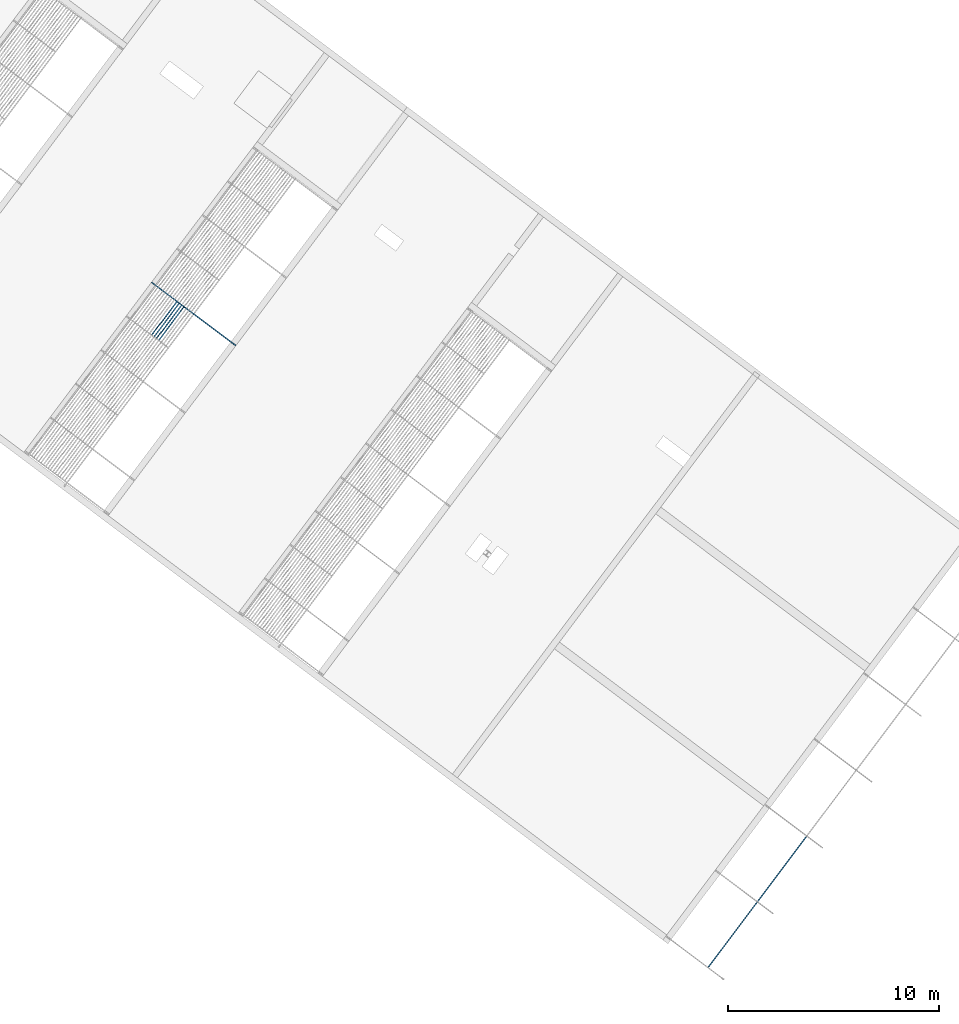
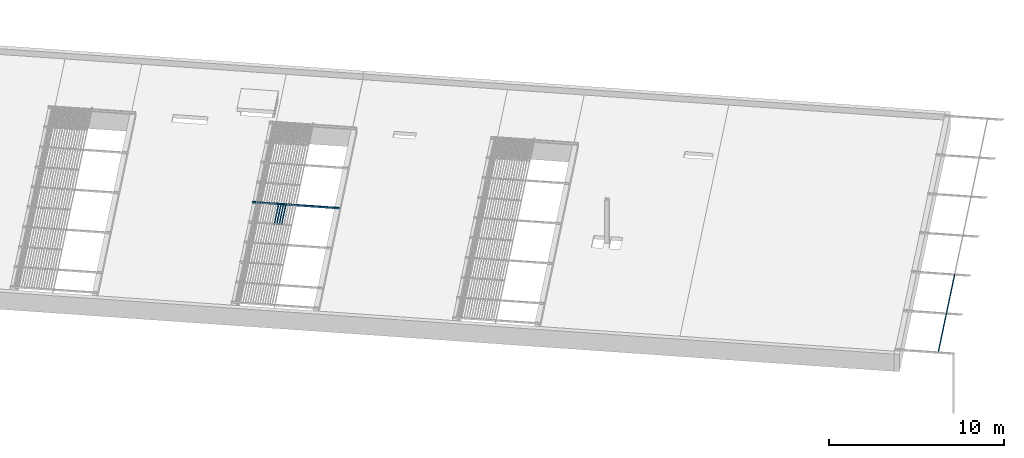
# One storey, part 16 of 95: 7 beams.
"""IFC2X3 building model written with IfcOpenShell, lengths in metres."""

from ifc_helpers import new_model, entity, si_unit, converted_unit, derived_unit, direction, frame, frame_2d, origin, place, context, subcontext, project, spatial, polyline, circle_curve, parameter, trimmed, segment, composite_curve, outline, extrude, material, type_object, element, save


model = new_model("IFC2X3")

# Units and contexts
model_context = context("Model", 3, precision=1e-05, world=origin(), true_north=direction((6.123031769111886e-17, 1.0)))
body_context = subcontext(model_context, "Body", "Model", "MODEL_VIEW")
ifc_project = project(units=[si_unit("LENGTHUNIT", "METRE"), si_unit("AREAUNIT", "SQUARE_METRE"), si_unit("VOLUMEUNIT", "CUBIC_METRE"), converted_unit("PLANEANGLEUNIT", "DEGREE", entity("IfcRatioMeasure", 0.017453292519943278), si_unit("PLANEANGLEUNIT", "RADIAN"), dimensions=[0, 0, 0, 0, 0, 0, 0]), si_unit("MASSUNIT", "GRAM", prefix="KILO"), derived_unit("MASSDENSITYUNIT", [(si_unit("MASSUNIT", "GRAM", prefix="KILO"), 1), (si_unit("LENGTHUNIT", "METRE"), -3)]), derived_unit("IONCONCENTRATIONUNIT", [(si_unit("MASSUNIT", "GRAM", prefix="KILO"), 1), (si_unit("LENGTHUNIT", "METRE"), -3)]), derived_unit("MOMENTOFINERTIAUNIT", [(si_unit("LENGTHUNIT", "METRE"), 4)]), si_unit("TIMEUNIT", "SECOND"), si_unit("FREQUENCYUNIT", "HERTZ"), si_unit("THERMODYNAMICTEMPERATUREUNIT", "DEGREE_CELSIUS"), derived_unit("THERMALTRANSMITTANCEUNIT", [(si_unit("MASSUNIT", "GRAM", prefix="KILO"), 1), (si_unit("THERMODYNAMICTEMPERATUREUNIT", "KELVIN"), -1), (si_unit("TIMEUNIT", "SECOND"), -3)]), derived_unit("THERMALCONDUCTANCEUNIT", [(si_unit("MASSUNIT", "GRAM", prefix="KILO"), 1), (si_unit("THERMODYNAMICTEMPERATUREUNIT", "KELVIN"), -1), (si_unit("TIMEUNIT", "SECOND"), -3), (si_unit("LENGTHUNIT", "METRE"), 1)]), derived_unit("VOLUMETRICFLOWRATEUNIT", [(si_unit("LENGTHUNIT", "METRE"), 3), (si_unit("TIMEUNIT", "SECOND"), -1)]), derived_unit("MASSFLOWRATEUNIT", [(si_unit("MASSUNIT", "GRAM", prefix="KILO"), 1), (si_unit("TIMEUNIT", "SECOND"), -1)]), derived_unit("ROTATIONALFREQUENCYUNIT", [(si_unit("TIMEUNIT", "SECOND"), -1)]), si_unit("ELECTRICCURRENTUNIT", "AMPERE"), si_unit("ELECTRICVOLTAGEUNIT", "VOLT"), si_unit("POWERUNIT", "WATT"), si_unit("FORCEUNIT", "NEWTON", prefix="KILO"), si_unit("ILLUMINANCEUNIT", "LUX"), si_unit("LUMINOUSFLUXUNIT", "LUMEN"), si_unit("LUMINOUSINTENSITYUNIT", "CANDELA"), derived_unit("USERDEFINED", [(si_unit("MASSUNIT", "GRAM", prefix="KILO"), -1), (si_unit("LENGTHUNIT", "METRE"), -2), (si_unit("TIMEUNIT", "SECOND"), 3), (si_unit("LUMINOUSFLUXUNIT", "LUMEN"), 1)]), derived_unit("USERDEFINED", [(si_unit("MASSUNIT", "GRAM", prefix="KILO"), 1), (si_unit("TIMEUNIT", "SECOND"), -3), (si_unit("LENGTHUNIT", "METRE"), 3), (si_unit("ELECTRICCURRENTUNIT", "AMPERE"), -2)]), derived_unit("SOUNDPOWERUNIT", [(si_unit("MASSUNIT", "GRAM", prefix="KILO"), 1), (si_unit("TIMEUNIT", "SECOND"), -3), (si_unit("LENGTHUNIT", "METRE"), 2)]), derived_unit("SOUNDPRESSUREUNIT", [(si_unit("MASSUNIT", "GRAM", prefix="KILO"), 1), (si_unit("LENGTHUNIT", "METRE"), -1), (si_unit("TIMEUNIT", "SECOND"), -2)]), derived_unit("LINEARVELOCITYUNIT", [(si_unit("LENGTHUNIT", "METRE"), 1), (si_unit("TIMEUNIT", "SECOND"), -1)]), si_unit("PRESSUREUNIT", "PASCAL"), derived_unit("USERDEFINED", [(si_unit("MASSUNIT", "GRAM", prefix="KILO"), 1), (si_unit("LENGTHUNIT", "METRE"), -2), (si_unit("TIMEUNIT", "SECOND"), -2)]), derived_unit("LINEARFORCEUNIT", [(si_unit("MASSUNIT", "GRAM", prefix="KILO"), 1), (si_unit("TIMEUNIT", "SECOND"), -2)]), derived_unit("PLANARFORCEUNIT", [(si_unit("MASSUNIT", "GRAM", prefix="KILO"), 1), (si_unit("LENGTHUNIT", "METRE"), -1), (si_unit("TIMEUNIT", "SECOND"), -2)]), derived_unit("SPECIFICHEATCAPACITYUNIT", [(si_unit("THERMODYNAMICTEMPERATUREUNIT", "KELVIN"), -1), (si_unit("LENGTHUNIT", "METRE"), 2), (si_unit("TIMEUNIT", "SECOND"), -2)]), derived_unit("HEATINGVALUEUNIT", [(si_unit("LENGTHUNIT", "METRE"), 2), (si_unit("TIMEUNIT", "SECOND"), -2)]), derived_unit("VAPORPERMEABILITYUNIT", [(si_unit("LENGTHUNIT", "METRE"), -1), (si_unit("TIMEUNIT", "SECOND"), 1)]), derived_unit("DYNAMICVISCOSITYUNIT", [(si_unit("MASSUNIT", "GRAM", prefix="KILO"), 1), (si_unit("TIMEUNIT", "SECOND"), -1), (si_unit("LENGTHUNIT", "METRE"), -1)]), derived_unit("THERMALEXPANSIONCOEFFICIENTUNIT", [(si_unit("THERMODYNAMICTEMPERATUREUNIT", "KELVIN"), -1)]), derived_unit("MODULUSOFELASTICITYUNIT", [(si_unit("MASSUNIT", "GRAM", prefix="KILO"), 1), (si_unit("LENGTHUNIT", "METRE"), -1), (si_unit("TIMEUNIT", "SECOND"), -2)]), derived_unit("ISOTHERMALMOISTURECAPACITYUNIT", [(si_unit("LENGTHUNIT", "METRE"), 3), (si_unit("MASSUNIT", "GRAM", prefix="KILO"), -1)]), derived_unit("MOISTUREDIFFUSIVITYUNIT", [(si_unit("TIMEUNIT", "SECOND"), -1), (si_unit("LENGTHUNIT", "METRE"), 2)])], contexts=[model_context])

# Site, building, storey
site_placement = place(None, origin())
site = spatial("IfcSite", under=ifc_project, at=site_placement, Name="Default", CompositionType="ELEMENT")
building_placement = place(site_placement, frame((0.0, 0.0, 235.0), z_axis=(0.0, 0.0, 1.0), x_axis=(-0.7996477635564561, 0.6004693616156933, 0.0)))
building = spatial("IfcBuilding", under=site, at=building_placement, CompositionType="ELEMENT")
storey_placement = place(building_placement, frame((0.0, 0.0, 3.400000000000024)))
storey = spatial("IfcBuildingStorey", under=building, at=storey_placement, Name="PC- Coberta STR", CompositionType="ELEMENT", Elevation=3.400000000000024)

# Beams
ifc_material = material(Name="_Acer- STR")
beam_type_1 = type_object("IfcBeamType", Name="STR- V- Acer- RHS- Rectangular- T1:120x60RHS", PredefinedType="NOTDEFINED")
beam_1_placement = place(storey_placement, frame((0.716308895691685, -22.14701323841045, 0.49840472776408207), z_axis=(0.0, 0.0, 1.0), x_axis=(0.0, -1.0, 0.0)))
element("IfcBeam", 1, at=beam_1_placement, inside=storey, type_object=beam_type_1, material=ifc_material, Name="STR- V- Acer- RHS- Rectangular- T1:120x60RHS", ObjectType="STR- V- Acer- RHS- Rectangular- T1:120x60RHS", context=body_context, shape_type="SweptSolid", body=[
    extrude(outline(composite_curve([segment(trimmed(circle_curve(frame_2d((-0.022000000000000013, -0.05200000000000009), x_axis=(1.0, 0.0)), 0.008), [parameter(180.0000000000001)], [parameter(269.99999999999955)], True, "PARAMETER"), True, "CONTINUOUS"), segment(polyline([(-0.021999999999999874, -0.0599999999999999), (0.022000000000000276, -0.0599999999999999)]), True, "CONTINUOUS"), segment(trimmed(circle_curve(frame_2d((0.022000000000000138, -0.05200000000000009), x_axis=(1.0, 0.0)), 0.008), [parameter(269.99999999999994)], [parameter(5.088887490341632e-14)], True, "PARAMETER"), True, "CONTINUOUS"), segment(polyline([(0.03000000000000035, -0.05200000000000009), (0.03000000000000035, 0.05200000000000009)]), True, "CONTINUOUS"), segment(trimmed(circle_curve(frame_2d((0.022000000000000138, 0.05200000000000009), x_axis=(1.0, 0.0)), 0.008), [parameter(359.99999999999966)], [parameter(89.99999999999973)], True, "PARAMETER"), True, "CONTINUOUS"), segment(polyline([(0.022000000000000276, 0.059999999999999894), (-0.021999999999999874, 0.059999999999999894)]), True, "CONTINUOUS"), segment(trimmed(circle_curve(frame_2d((-0.022000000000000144, 0.05200000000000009), x_axis=(1.0, 0.0)), 0.008), [parameter(90.00000000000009)], [parameter(180.00000000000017)], True, "PARAMETER"), True, "CONTINUOUS"), segment(polyline([(-0.02999999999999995, 0.05200000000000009), (-0.02999999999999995, -0.05200000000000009)]), True, "CONTINUOUS")], self_intersect=False), holes=[composite_curve([segment(polyline([(0.022000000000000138, -0.05600000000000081), (-0.02199999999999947, -0.05600000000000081)]), True, "CONTINUOUS"), segment(trimmed(circle_curve(frame_2d((-0.021999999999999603, -0.05200000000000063), x_axis=(1.0, 0.0)), 0.004), [parameter(179.99999999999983)], [parameter(269.9999999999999)], True, "PARAMETER"), False, "CONTINUOUS"), segment(polyline([(-0.02599999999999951, -0.05200000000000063), (-0.02599999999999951, 0.051999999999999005)]), True, "CONTINUOUS"), segment(trimmed(circle_curve(frame_2d((-0.021999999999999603, 0.051999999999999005), x_axis=(1.0, 0.0)), 0.004), [parameter(90.00000000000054)], [parameter(180.00000000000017)], True, "PARAMETER"), False, "CONTINUOUS"), segment(polyline([(-0.02199999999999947, 0.055999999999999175), (0.022000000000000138, 0.055999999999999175)]), True, "CONTINUOUS"), segment(trimmed(circle_curve(frame_2d((0.021999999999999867, 0.051999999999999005), x_axis=(1.0, 0.0)), 0.004), [parameter(0.0)], [parameter(90.00000000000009)], True, "PARAMETER"), False, "CONTINUOUS"), segment(polyline([(0.02600000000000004, 0.051999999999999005), (0.02600000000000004, -0.05200000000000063)]), True, "CONTINUOUS"), segment(trimmed(circle_curve(frame_2d((0.021999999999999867, -0.05200000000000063), x_axis=(1.0, 0.0)), 0.004), [parameter(270.00000000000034)], [parameter(3.5622212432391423e-13)], True, "PARAMETER"), False, "CONTINUOUS")], self_intersect=False)]), frame((-3.8401221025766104, 0.03159527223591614, 0.06159527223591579), z_axis=(1.0, 0.0, 0.0), x_axis=(0.0, -1.0, 0.0)), (0.0, 0.0, 1.0), 3.8401221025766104),
])
beam_2_placement = place(storey_placement, frame((0.7163088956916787, -26.047013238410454, 0.49840472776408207), z_axis=(0.0, 0.0, 1.0), x_axis=(0.0, -1.0, 0.0)))
element("IfcBeam", 2, at=beam_2_placement, inside=storey, type_object=beam_type_1, material=ifc_material, Name="STR- V- Acer- RHS- Rectangular- T1:120x60RHS", ObjectType="STR- V- Acer- RHS- Rectangular- T1:120x60RHS", context=body_context, shape_type="SweptSolid", body=[
    extrude(outline(composite_curve([segment(trimmed(circle_curve(frame_2d((-0.022000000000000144, -0.05200000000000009), x_axis=(1.0, 0.0)), 0.008), [parameter(180.0000000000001)], [parameter(269.99999999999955)], True, "PARAMETER"), True, "CONTINUOUS"), segment(polyline([(-0.022000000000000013, -0.0599999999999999), (0.02200000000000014, -0.0599999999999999)]), True, "CONTINUOUS"), segment(trimmed(circle_curve(frame_2d((0.022000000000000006, -0.05200000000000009), x_axis=(1.0, 0.0)), 0.008), [parameter(269.99999999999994)], [parameter(5.088887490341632e-14)], True, "PARAMETER"), True, "CONTINUOUS"), segment(polyline([(0.030000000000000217, -0.05200000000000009), (0.030000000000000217, 0.05200000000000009)]), True, "CONTINUOUS"), segment(trimmed(circle_curve(frame_2d((0.022000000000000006, 0.05200000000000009), x_axis=(1.0, 0.0)), 0.008), [parameter(359.99999999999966)], [parameter(89.99999999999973)], True, "PARAMETER"), True, "CONTINUOUS"), segment(polyline([(0.02200000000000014, 0.059999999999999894), (-0.022000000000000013, 0.059999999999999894)]), True, "CONTINUOUS"), segment(trimmed(circle_curve(frame_2d((-0.022000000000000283, 0.05200000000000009), x_axis=(1.0, 0.0)), 0.008), [parameter(90.00000000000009)], [parameter(180.00000000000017)], True, "PARAMETER"), True, "CONTINUOUS"), segment(polyline([(-0.03000000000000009, 0.05200000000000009), (-0.03000000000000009, -0.05200000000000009)]), True, "CONTINUOUS")], self_intersect=False), holes=[composite_curve([segment(polyline([(0.022000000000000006, -0.05600000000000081), (-0.021999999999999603, -0.05600000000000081)]), True, "CONTINUOUS"), segment(trimmed(circle_curve(frame_2d((-0.021999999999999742, -0.05200000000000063), x_axis=(1.0, 0.0)), 0.004), [parameter(179.99999999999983)], [parameter(269.9999999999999)], True, "PARAMETER"), False, "CONTINUOUS"), segment(polyline([(-0.02599999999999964, -0.05200000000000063), (-0.02599999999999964, 0.051999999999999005)]), True, "CONTINUOUS"), segment(trimmed(circle_curve(frame_2d((-0.021999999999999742, 0.051999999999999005), x_axis=(1.0, 0.0)), 0.004), [parameter(90.00000000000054)], [parameter(180.00000000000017)], True, "PARAMETER"), False, "CONTINUOUS"), segment(polyline([(-0.021999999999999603, 0.055999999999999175), (0.022000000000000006, 0.055999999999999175)]), True, "CONTINUOUS"), segment(trimmed(circle_curve(frame_2d((0.021999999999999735, 0.051999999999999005), x_axis=(1.0, 0.0)), 0.004), [parameter(0.0)], [parameter(90.00000000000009)], True, "PARAMETER"), False, "CONTINUOUS"), segment(polyline([(0.02599999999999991, 0.051999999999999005), (0.02599999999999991, -0.05200000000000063)]), True, "CONTINUOUS"), segment(trimmed(circle_curve(frame_2d((0.021999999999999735, -0.05200000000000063), x_axis=(1.0, 0.0)), 0.004), [parameter(270.00000000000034)], [parameter(3.5622212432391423e-13)], True, "PARAMETER"), False, "CONTINUOUS")], self_intersect=False)]), frame((-3.8401221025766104, 0.03159527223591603, 0.06159527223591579), z_axis=(1.0, 0.0, 0.0), x_axis=(0.0, -1.0, 0.0)), (0.0, 0.0, 1.0), 3.8401221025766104),
])
beam_3_placement = place(storey_placement, frame((36.34514768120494, -28.44678703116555, 0.49840472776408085), z_axis=(0.0, 0.0, 1.0), x_axis=(-1.0, 0.0, 0.0)))
element("IfcBeam", 3, at=beam_3_placement, inside=storey, type_object=beam_type_1, material=ifc_material, Name="STR- V- Acer- RHS- Rectangular- T1:120x60RHS", ObjectType="STR- V- Acer- RHS- Rectangular- T1:120x60RHS", context=body_context, shape_type="SweptSolid", body=[
    extrude(outline(composite_curve([segment(trimmed(circle_curve(frame_2d((-0.02199999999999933, -0.05200000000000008), x_axis=(1.0, 0.0)), 0.008), [parameter(180.0000000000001)], [parameter(269.99999999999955)], True, "PARAMETER"), True, "CONTINUOUS"), segment(polyline([(-0.022000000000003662, -0.05999999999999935), (0.021999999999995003, -0.05999999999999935)]), True, "CONTINUOUS"), segment(trimmed(circle_curve(frame_2d((0.021999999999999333, -0.05200000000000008), x_axis=(1.0, 0.0)), 0.008), [parameter(269.99999999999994)], [parameter(5.088887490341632e-14)], True, "PARAMETER"), True, "CONTINUOUS"), segment(polyline([(0.029999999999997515, -0.05199999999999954), (0.029999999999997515, 0.052000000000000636)]), True, "CONTINUOUS"), segment(trimmed(circle_curve(frame_2d((0.021999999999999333, 0.052000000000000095), x_axis=(1.0, 0.0)), 0.008), [parameter(359.99999999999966)], [parameter(89.99999999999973)], True, "PARAMETER"), True, "CONTINUOUS"), segment(polyline([(0.021999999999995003, 0.06000000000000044), (-0.022000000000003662, 0.06000000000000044)]), True, "CONTINUOUS"), segment(trimmed(circle_curve(frame_2d((-0.02199999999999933, 0.052000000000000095), x_axis=(1.0, 0.0)), 0.008), [parameter(90.00000000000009)], [parameter(180.00000000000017)], True, "PARAMETER"), True, "CONTINUOUS"), segment(polyline([(-0.03000000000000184, 0.052000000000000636), (-0.03000000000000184, -0.05199999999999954)]), True, "CONTINUOUS")], self_intersect=False), holes=[composite_curve([segment(polyline([(0.021999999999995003, -0.056000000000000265), (-0.022000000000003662, -0.056000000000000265)]), True, "CONTINUOUS"), segment(trimmed(circle_curve(frame_2d((-0.02199999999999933, -0.05200000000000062), x_axis=(1.0, 0.0)), 0.004), [parameter(179.99999999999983)], [parameter(269.9999999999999)], True, "PARAMETER"), False, "CONTINUOUS"), segment(polyline([(-0.02600000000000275, -0.05200000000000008), (-0.02600000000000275, 0.051999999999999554)]), True, "CONTINUOUS"), segment(trimmed(circle_curve(frame_2d((-0.02199999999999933, 0.05199999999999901), x_axis=(1.0, 0.0)), 0.004), [parameter(90.00000000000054)], [parameter(180.00000000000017)], True, "PARAMETER"), False, "CONTINUOUS"), segment(polyline([(-0.022000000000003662, 0.055999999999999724), (0.021999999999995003, 0.055999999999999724)]), True, "CONTINUOUS"), segment(trimmed(circle_curve(frame_2d((0.021999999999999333, 0.05199999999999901), x_axis=(1.0, 0.0)), 0.004), [parameter(0.0)], [parameter(90.00000000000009)], True, "PARAMETER"), False, "CONTINUOUS"), segment(polyline([(0.02599999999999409, 0.051999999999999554), (0.02599999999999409, -0.05200000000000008)]), True, "CONTINUOUS"), segment(trimmed(circle_curve(frame_2d((0.021999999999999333, -0.05200000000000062), x_axis=(1.0, 0.0)), 0.004), [parameter(270.00000000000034)], [parameter(3.5622212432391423e-13)], True, "PARAMETER"), False, "CONTINUOUS")], self_intersect=False)]), frame((-5.0, -0.03159527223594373, 0.061595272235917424), z_axis=(1.0, 0.0, 0.0), x_axis=(0.0, -1.0, 0.0)), (0.0, 0.0, 1.0), 5.000000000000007),
])
beam_type_2 = type_object("IfcBeamType", Name="STR- V- Acer- RHS- Rectangular- T1:120x40RHS -", PredefinedType="NOTDEFINED")
beam_4_placement = place(storey_placement, frame((39.813552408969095, -28.385191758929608, 0.4984047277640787), z_axis=(0.0, 0.0, 1.0), x_axis=(0.0, -1.0, 0.0)))
element("IfcBeam", 4, at=beam_4_placement, inside=storey, type_object=beam_type_2, material=ifc_material, Name="STR- V- Acer- RHS- Rectangular- T1:120x40RHS -", ObjectType="STR- V- Acer- RHS- Rectangular- T1:120x40RHS -", context=body_context, shape_type="SweptSolid", body=[
    extrude(outline(composite_curve([segment(trimmed(circle_curve(frame_2d((-0.01400000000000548, -0.053999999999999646), x_axis=(1.0, 0.0)), 0.006), [parameter(180.0000000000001)], [parameter(269.99999999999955)], True, "PARAMETER"), True, "CONTINUOUS"), segment(polyline([(-0.01400000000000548, -0.0599999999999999), (0.013999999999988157, -0.0599999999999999)]), True, "CONTINUOUS"), segment(trimmed(circle_curve(frame_2d((0.013999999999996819, -0.053999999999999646), x_axis=(1.0, 0.0)), 0.006), [parameter(269.99999999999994)], [parameter(1.0177774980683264e-13)], True, "PARAMETER"), True, "CONTINUOUS"), segment(polyline([(0.019999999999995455, -0.053999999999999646), (0.019999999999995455, 0.05400000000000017)]), True, "CONTINUOUS"), segment(trimmed(circle_curve(frame_2d((0.013999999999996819, 0.05400000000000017), x_axis=(1.0, 0.0)), 0.006), [parameter(359.9999999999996)], [parameter(89.99999999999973)], True, "PARAMETER"), True, "CONTINUOUS"), segment(polyline([(0.013999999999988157, 0.059999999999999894), (-0.01400000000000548, 0.059999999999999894)]), True, "CONTINUOUS"), segment(trimmed(circle_curve(frame_2d((-0.01400000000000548, 0.05400000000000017), x_axis=(1.0, 0.0)), 0.006), [parameter(90.00000000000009)], [parameter(180.00000000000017)], True, "PARAMETER"), True, "CONTINUOUS"), segment(polyline([(-0.02000000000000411, 0.05400000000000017), (-0.02000000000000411, -0.05400000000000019)]), True, "CONTINUOUS")], self_intersect=False), holes=[composite_curve([segment(polyline([(0.013999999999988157, -0.05700000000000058), (-0.01400000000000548, -0.05700000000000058)]), True, "CONTINUOUS"), segment(trimmed(circle_curve(frame_2d((-0.01400000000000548, -0.05400000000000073), x_axis=(1.0, 0.0)), 0.003), [parameter(179.99999999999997)], [parameter(269.9999999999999)], True, "PARAMETER"), False, "CONTINUOUS"), segment(polyline([(-0.017000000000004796, -0.05400000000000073), (-0.017000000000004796, 0.05399999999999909)]), True, "CONTINUOUS"), segment(trimmed(circle_curve(frame_2d((-0.01400000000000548, 0.05399999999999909), x_axis=(1.0, 0.0)), 0.003), [parameter(90.00000000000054)], [parameter(180.0000000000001)], True, "PARAMETER"), False, "CONTINUOUS"), segment(polyline([(-0.01400000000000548, 0.056999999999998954), (0.013999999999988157, 0.056999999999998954)]), True, "CONTINUOUS"), segment(trimmed(circle_curve(frame_2d((0.013999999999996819, 0.05399999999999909), x_axis=(1.0, 0.0)), 0.003), [parameter(0.0)], [parameter(90.00000000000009)], True, "PARAMETER"), False, "CONTINUOUS"), segment(polyline([(0.016999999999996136, 0.05399999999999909), (0.016999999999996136, -0.05400000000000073)]), True, "CONTINUOUS"), segment(trimmed(circle_curve(frame_2d((0.013999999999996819, -0.05400000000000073), x_axis=(1.0, 0.0)), 0.003), [parameter(270.00000000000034)], [parameter(3.053332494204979e-13)], True, "PARAMETER"), False, "CONTINUOUS")], self_intersect=False)]), frame((-1.9399999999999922, 0.021595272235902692, 0.06159527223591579), z_axis=(1.0, 0.0, 0.0), x_axis=(0.0, -1.0, 0.0)), (0.0, 0.0, 1.0), 1.9399999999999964),
])
beam_5_placement = place(storey_placement, frame((39.67355240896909, -28.385191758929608, 0.4984047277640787), z_axis=(0.0, 0.0, 1.0), x_axis=(0.0, -1.0, 0.0)))
element("IfcBeam", 5, at=beam_5_placement, inside=storey, type_object=beam_type_2, material=ifc_material, Name="STR- V- Acer- RHS- Rectangular- T1:120x40RHS -", ObjectType="STR- V- Acer- RHS- Rectangular- T1:120x40RHS -", context=body_context, shape_type="SweptSolid", body=[
    extrude(outline(composite_curve([segment(trimmed(circle_curve(frame_2d((-0.01400000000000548, -0.053999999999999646), x_axis=(1.0, 0.0)), 0.006), [parameter(180.0000000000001)], [parameter(269.99999999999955)], True, "PARAMETER"), True, "CONTINUOUS"), segment(polyline([(-0.01400000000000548, -0.0599999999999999), (0.013999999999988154, -0.0599999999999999)]), True, "CONTINUOUS"), segment(trimmed(circle_curve(frame_2d((0.013999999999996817, -0.053999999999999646), x_axis=(1.0, 0.0)), 0.006), [parameter(269.99999999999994)], [parameter(1.0177774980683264e-13)], True, "PARAMETER"), True, "CONTINUOUS"), segment(polyline([(0.019999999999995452, -0.053999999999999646), (0.019999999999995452, 0.05400000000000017)]), True, "CONTINUOUS"), segment(trimmed(circle_curve(frame_2d((0.013999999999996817, 0.05400000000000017), x_axis=(1.0, 0.0)), 0.006), [parameter(359.9999999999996)], [parameter(89.99999999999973)], True, "PARAMETER"), True, "CONTINUOUS"), segment(polyline([(0.013999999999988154, 0.059999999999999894), (-0.01400000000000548, 0.059999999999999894)]), True, "CONTINUOUS"), segment(trimmed(circle_curve(frame_2d((-0.01400000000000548, 0.05400000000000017), x_axis=(1.0, 0.0)), 0.006), [parameter(90.00000000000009)], [parameter(180.00000000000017)], True, "PARAMETER"), True, "CONTINUOUS"), segment(polyline([(-0.02000000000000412, 0.05400000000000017), (-0.02000000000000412, -0.05400000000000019)]), True, "CONTINUOUS")], self_intersect=False), holes=[composite_curve([segment(polyline([(0.013999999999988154, -0.05700000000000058), (-0.01400000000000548, -0.05700000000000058)]), True, "CONTINUOUS"), segment(trimmed(circle_curve(frame_2d((-0.01400000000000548, -0.05400000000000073), x_axis=(1.0, 0.0)), 0.003), [parameter(179.99999999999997)], [parameter(269.9999999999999)], True, "PARAMETER"), False, "CONTINUOUS"), segment(polyline([(-0.017000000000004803, -0.05400000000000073), (-0.017000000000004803, 0.05399999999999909)]), True, "CONTINUOUS"), segment(trimmed(circle_curve(frame_2d((-0.01400000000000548, 0.05399999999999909), x_axis=(1.0, 0.0)), 0.003), [parameter(90.00000000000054)], [parameter(180.0000000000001)], True, "PARAMETER"), False, "CONTINUOUS"), segment(polyline([(-0.01400000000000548, 0.056999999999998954), (0.013999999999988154, 0.056999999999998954)]), True, "CONTINUOUS"), segment(trimmed(circle_curve(frame_2d((0.013999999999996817, 0.05399999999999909), x_axis=(1.0, 0.0)), 0.003), [parameter(0.0)], [parameter(90.00000000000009)], True, "PARAMETER"), False, "CONTINUOUS"), segment(polyline([(0.016999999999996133, 0.05399999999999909), (0.016999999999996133, -0.05400000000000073)]), True, "CONTINUOUS"), segment(trimmed(circle_curve(frame_2d((0.013999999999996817, -0.05400000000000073), x_axis=(1.0, 0.0)), 0.003), [parameter(270.00000000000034)], [parameter(3.053332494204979e-13)], True, "PARAMETER"), False, "CONTINUOUS")], self_intersect=False)]), frame((-1.9399999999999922, 0.02159527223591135, 0.06159527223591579), z_axis=(1.0, 0.0, 0.0), x_axis=(0.0, -1.0, 0.0)), (0.0, 0.0, 1.0), 1.9399999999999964),
])
beam_6_placement = place(storey_placement, frame((39.533552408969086, -28.385191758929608, 0.4984047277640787), z_axis=(0.0, 0.0, 1.0), x_axis=(0.0, -1.0, 0.0)))
element("IfcBeam", 6, at=beam_6_placement, inside=storey, type_object=beam_type_2, material=ifc_material, Name="STR- V- Acer- RHS- Rectangular- T1:120x40RHS -", ObjectType="STR- V- Acer- RHS- Rectangular- T1:120x40RHS -", context=body_context, shape_type="SweptSolid", body=[
    extrude(outline(composite_curve([segment(trimmed(circle_curve(frame_2d((-0.013999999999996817, -0.053999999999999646), x_axis=(1.0, 0.0)), 0.006), [parameter(180.0000000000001)], [parameter(269.99999999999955)], True, "PARAMETER"), True, "CONTINUOUS"), segment(polyline([(-0.013999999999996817, -0.0599999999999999), (0.013999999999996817, -0.0599999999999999)]), True, "CONTINUOUS"), segment(trimmed(circle_curve(frame_2d((0.01400000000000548, -0.053999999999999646), x_axis=(1.0, 0.0)), 0.006), [parameter(269.99999999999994)], [parameter(1.0177774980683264e-13)], True, "PARAMETER"), True, "CONTINUOUS"), segment(polyline([(0.020000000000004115, -0.053999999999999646), (0.020000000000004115, 0.05400000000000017)]), True, "CONTINUOUS"), segment(trimmed(circle_curve(frame_2d((0.01400000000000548, 0.05400000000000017), x_axis=(1.0, 0.0)), 0.006), [parameter(359.9999999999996)], [parameter(89.99999999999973)], True, "PARAMETER"), True, "CONTINUOUS"), segment(polyline([(0.013999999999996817, 0.059999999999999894), (-0.013999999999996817, 0.059999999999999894)]), True, "CONTINUOUS"), segment(trimmed(circle_curve(frame_2d((-0.013999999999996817, 0.05400000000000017), x_axis=(1.0, 0.0)), 0.006), [parameter(90.00000000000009)], [parameter(180.00000000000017)], True, "PARAMETER"), True, "CONTINUOUS"), segment(polyline([(-0.019999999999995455, 0.05400000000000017), (-0.019999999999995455, -0.05400000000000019)]), True, "CONTINUOUS")], self_intersect=False), holes=[composite_curve([segment(polyline([(0.013999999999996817, -0.05700000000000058), (-0.013999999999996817, -0.05700000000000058)]), True, "CONTINUOUS"), segment(trimmed(circle_curve(frame_2d((-0.013999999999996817, -0.05400000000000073), x_axis=(1.0, 0.0)), 0.003), [parameter(179.99999999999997)], [parameter(269.9999999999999)], True, "PARAMETER"), False, "CONTINUOUS"), segment(polyline([(-0.01699999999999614, -0.05400000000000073), (-0.01699999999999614, 0.05399999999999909)]), True, "CONTINUOUS"), segment(trimmed(circle_curve(frame_2d((-0.013999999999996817, 0.05399999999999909), x_axis=(1.0, 0.0)), 0.003), [parameter(90.00000000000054)], [parameter(180.0000000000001)], True, "PARAMETER"), False, "CONTINUOUS"), segment(polyline([(-0.013999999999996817, 0.056999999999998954), (0.013999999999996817, 0.056999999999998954)]), True, "CONTINUOUS"), segment(trimmed(circle_curve(frame_2d((0.01400000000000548, 0.05399999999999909), x_axis=(1.0, 0.0)), 0.003), [parameter(0.0)], [parameter(90.00000000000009)], True, "PARAMETER"), False, "CONTINUOUS"), segment(polyline([(0.017000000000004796, 0.05399999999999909), (0.017000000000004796, -0.05400000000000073)]), True, "CONTINUOUS"), segment(trimmed(circle_curve(frame_2d((0.01400000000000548, -0.05400000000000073), x_axis=(1.0, 0.0)), 0.003), [parameter(270.00000000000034)], [parameter(3.053332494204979e-13)], True, "PARAMETER"), False, "CONTINUOUS")], self_intersect=False)]), frame((-1.9399999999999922, 0.021595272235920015, 0.06159527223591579), z_axis=(1.0, 0.0, 0.0), x_axis=(0.0, -1.0, 0.0)), (0.0, 0.0, 1.0), 1.9399999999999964),
])
beam_7_placement = place(storey_placement, frame((39.393552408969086, -28.385191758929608, 0.4984047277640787), z_axis=(0.0, 0.0, 1.0), x_axis=(0.0, -1.0, 0.0)))
element("IfcBeam", 7, at=beam_7_placement, inside=storey, type_object=beam_type_2, material=ifc_material, Name="STR- V- Acer- RHS- Rectangular- T1:120x40RHS -", ObjectType="STR- V- Acer- RHS- Rectangular- T1:120x40RHS -", context=body_context, shape_type="SweptSolid", body=[
    extrude(outline(composite_curve([segment(trimmed(circle_curve(frame_2d((-0.01400000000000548, -0.053999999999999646), x_axis=(1.0, 0.0)), 0.006), [parameter(180.0000000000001)], [parameter(269.99999999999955)], True, "PARAMETER"), True, "CONTINUOUS"), segment(polyline([(-0.01400000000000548, -0.0599999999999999), (0.013999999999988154, -0.0599999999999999)]), True, "CONTINUOUS"), segment(trimmed(circle_curve(frame_2d((0.013999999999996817, -0.053999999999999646), x_axis=(1.0, 0.0)), 0.006), [parameter(269.99999999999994)], [parameter(1.0177774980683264e-13)], True, "PARAMETER"), True, "CONTINUOUS"), segment(polyline([(0.019999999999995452, -0.053999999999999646), (0.019999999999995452, 0.05400000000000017)]), True, "CONTINUOUS"), segment(trimmed(circle_curve(frame_2d((0.013999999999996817, 0.05400000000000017), x_axis=(1.0, 0.0)), 0.006), [parameter(359.9999999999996)], [parameter(89.99999999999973)], True, "PARAMETER"), True, "CONTINUOUS"), segment(polyline([(0.013999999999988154, 0.059999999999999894), (-0.01400000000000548, 0.059999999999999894)]), True, "CONTINUOUS"), segment(trimmed(circle_curve(frame_2d((-0.01400000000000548, 0.05400000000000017), x_axis=(1.0, 0.0)), 0.006), [parameter(90.00000000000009)], [parameter(180.00000000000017)], True, "PARAMETER"), True, "CONTINUOUS"), segment(polyline([(-0.02000000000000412, 0.05400000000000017), (-0.02000000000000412, -0.05400000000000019)]), True, "CONTINUOUS")], self_intersect=False), holes=[composite_curve([segment(polyline([(0.013999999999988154, -0.05700000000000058), (-0.01400000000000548, -0.05700000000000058)]), True, "CONTINUOUS"), segment(trimmed(circle_curve(frame_2d((-0.01400000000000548, -0.05400000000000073), x_axis=(1.0, 0.0)), 0.003), [parameter(179.99999999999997)], [parameter(269.9999999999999)], True, "PARAMETER"), False, "CONTINUOUS"), segment(polyline([(-0.017000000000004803, -0.05400000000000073), (-0.017000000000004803, 0.05399999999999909)]), True, "CONTINUOUS"), segment(trimmed(circle_curve(frame_2d((-0.01400000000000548, 0.05399999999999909), x_axis=(1.0, 0.0)), 0.003), [parameter(90.00000000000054)], [parameter(180.0000000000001)], True, "PARAMETER"), False, "CONTINUOUS"), segment(polyline([(-0.01400000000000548, 0.056999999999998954), (0.013999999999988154, 0.056999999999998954)]), True, "CONTINUOUS"), segment(trimmed(circle_curve(frame_2d((0.013999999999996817, 0.05399999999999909), x_axis=(1.0, 0.0)), 0.003), [parameter(0.0)], [parameter(90.00000000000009)], True, "PARAMETER"), False, "CONTINUOUS"), segment(polyline([(0.016999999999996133, 0.05399999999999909), (0.016999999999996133, -0.05400000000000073)]), True, "CONTINUOUS"), segment(trimmed(circle_curve(frame_2d((0.013999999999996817, -0.05400000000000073), x_axis=(1.0, 0.0)), 0.003), [parameter(270.00000000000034)], [parameter(3.053332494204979e-13)], True, "PARAMETER"), False, "CONTINUOUS")], self_intersect=False)]), frame((-1.9399999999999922, 0.02159527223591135, 0.06159527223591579), z_axis=(1.0, 0.0, 0.0), x_axis=(0.0, -1.0, 0.0)), (0.0, 0.0, 1.0), 1.9399999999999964),
])

save(model, "model.ifc")
